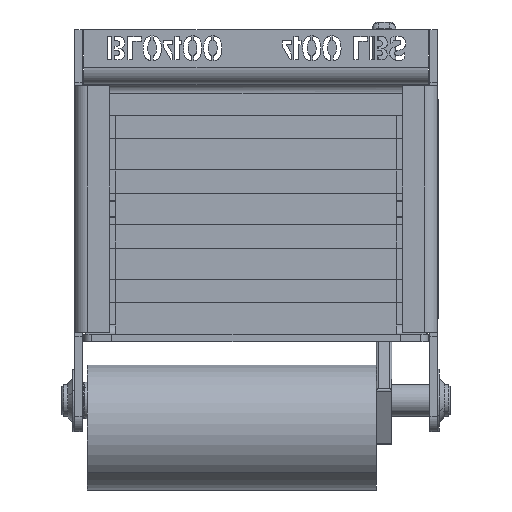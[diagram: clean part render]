
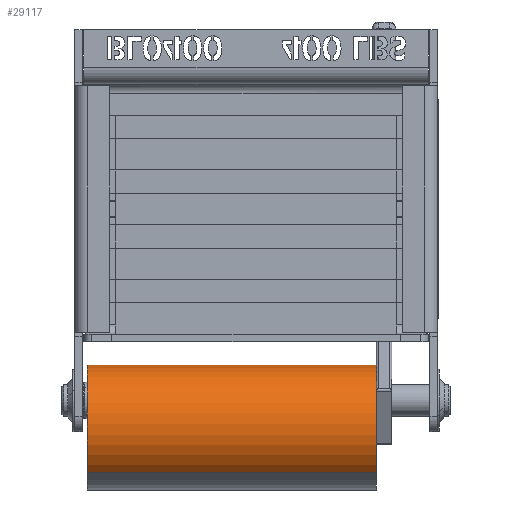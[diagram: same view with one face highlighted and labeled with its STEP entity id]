
A CAD part, front view. The second image highlights one B-rep face of the part: STEP entity #29117.
In plain terms, the highlighted cylindrical face has radius 25.4 mm (diameter 50.8 mm), a partial arc.
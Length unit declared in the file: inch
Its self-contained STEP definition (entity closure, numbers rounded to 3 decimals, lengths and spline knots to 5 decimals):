
#1357 = LINE ( 'NONE', #55216, #29270 ) ;
#5077 = ORIENTED_EDGE ( 'NONE', *, *, #58273, .F. ) ;
#5390 = VERTEX_POINT ( 'NONE', #58864 ) ;
#7173 = ORIENTED_EDGE ( 'NONE', *, *, #94202, .F. ) ;
#9251 = CARTESIAN_POINT ( 'NONE',  ( -2.70375, 0.23553, -2.77153 ) ) ;
#10149 = VERTEX_POINT ( 'NONE', #55110 ) ;
#14386 = DIRECTION ( 'NONE',  ( 1., 0., 0. ) ) ;
#15184 = DIRECTION ( 'NONE',  ( 0., -0.689, -0.725 ) ) ;
#20979 = CIRCLE ( 'NONE', #81715, 1. ) ;
#22748 = VERTEX_POINT ( 'NONE', #77744 ) ;
#24198 = DIRECTION ( 'NONE',  ( 1., 0., 0. ) ) ;
#28760 = CARTESIAN_POINT ( 'NONE',  ( -2.70375, -1.14212, -4.22139 ) ) ;
#29117 = ADVANCED_FACE ( 'NONE', ( #41479 ), #49624, .T. ) ;
#29270 = VECTOR ( 'NONE', #84255, 39.37008 ) ;
#29817 = CARTESIAN_POINT ( 'NONE',  ( 1.92125, -0.45329, -3.49646 ) ) ;
#30095 = AXIS2_PLACEMENT_3D ( 'NONE', #36171, #14386, #43667 ) ;
#36171 = CARTESIAN_POINT ( 'NONE',  ( -2.70375, -0.45329, -3.49646 ) ) ;
#37350 = ORIENTED_EDGE ( 'NONE', *, *, #56255, .T. ) ;
#38767 = ORIENTED_EDGE ( 'NONE', *, *, #61855, .T. ) ;
#40772 = LINE ( 'NONE', #9251, #67635 ) ;
#41479 = FACE_OUTER_BOUND ( 'NONE', #55285, .T. ) ;
#43667 = DIRECTION ( 'NONE',  ( 0., -0.689, -0.725 ) ) ;
#49624 = CYLINDRICAL_SURFACE ( 'NONE', #30095, 1. ) ;
#55110 = CARTESIAN_POINT ( 'NONE',  ( -2.70375, 0.23553, -2.77153 ) ) ;
#55216 = CARTESIAN_POINT ( 'NONE',  ( -2.70375, -1.14212, -4.22139 ) ) ;
#55285 = EDGE_LOOP ( 'NONE', ( #7173, #37350, #38767, #5077 ) ) ;
#56255 = EDGE_CURVE ( 'NONE', #10149, #72149, #62107, .T. ) ;
#57335 = AXIS2_PLACEMENT_3D ( 'NONE', #65541, #73008, #94812 ) ;
#58273 = EDGE_CURVE ( 'NONE', #22748, #5390, #20979, .T. ) ;
#58864 = CARTESIAN_POINT ( 'NONE',  ( 1.92125, -1.14212, -4.22139 ) ) ;
#59465 = DIRECTION ( 'NONE',  ( 1., 0., 0. ) ) ;
#61855 = EDGE_CURVE ( 'NONE', #72149, #5390, #1357, .T. ) ;
#62107 = CIRCLE ( 'NONE', #57335, 1. ) ;
#65541 = CARTESIAN_POINT ( 'NONE',  ( -2.70375, -0.45329, -3.49646 ) ) ;
#67635 = VECTOR ( 'NONE', #24198, 39.37008 ) ;
#72149 = VERTEX_POINT ( 'NONE', #28760 ) ;
#73008 = DIRECTION ( 'NONE',  ( 1., 0., 0. ) ) ;
#77744 = CARTESIAN_POINT ( 'NONE',  ( 1.92125, 0.23553, -2.77153 ) ) ;
#81715 = AXIS2_PLACEMENT_3D ( 'NONE', #29817, #59465, #15184 ) ;
#84255 = DIRECTION ( 'NONE',  ( 1., 0., 0. ) ) ;
#94202 = EDGE_CURVE ( 'NONE', #10149, #22748, #40772, .T. ) ;
#94812 = DIRECTION ( 'NONE',  ( 0., -0.689, -0.725 ) ) ;
